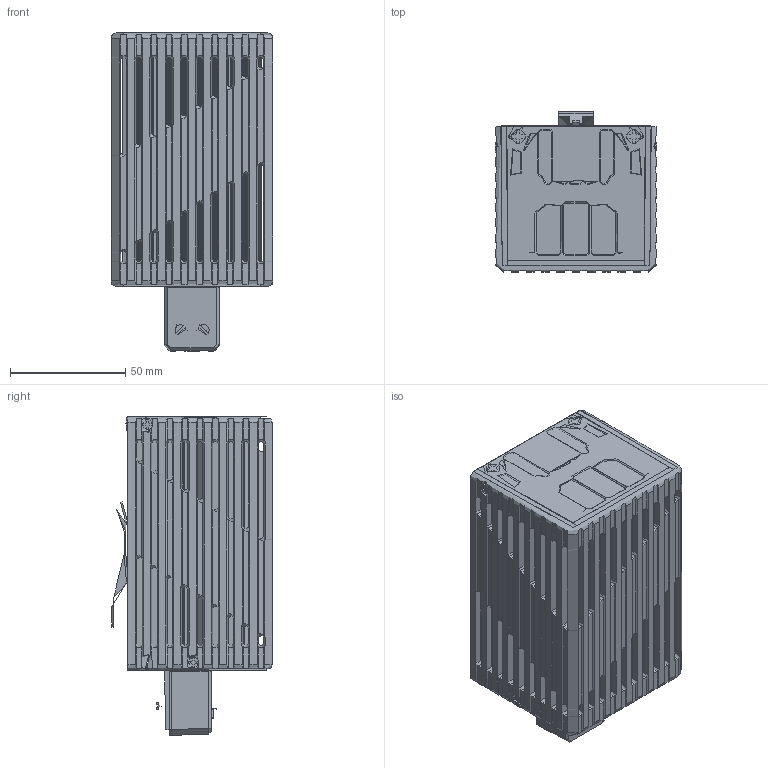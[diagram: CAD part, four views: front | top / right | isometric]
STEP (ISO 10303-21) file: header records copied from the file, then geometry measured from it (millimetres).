
FILE_DESCRIPTION(/* description */ (''),/* implementation_level */ '2;1');
FILE_NAME(/* name */ 'STHT75~1',/* time_stamp */ '2023-01-24T13:54:29+01:00',/* author */ (''),/* organization */ (''),/* preprocessor_version */ 'ST-DEVELOPER v16.5',/* originating_system */ '',/* authorisation */ '');
FILE_SCHEMA (('AUTOMOTIVE_DESIGN'));
Products named in the file (1): Document
Bounding box: 70.03 x 69.35 x 138.13 mm (x, y, z)
Volume: 174662.6 mm3; surface area: 188137.4 mm2
Topology: 18 solids, 424 shells, 2866 faces, 10112 edges, 7823 vertices
Faces by surface type: plane 1661, bspline 1205
Entity records: 169045 total; most frequent: CARTESIAN_POINT 109733, ORIENTED_EDGE 15738, EDGE_CURVE 8991, B_SPLINE_CURVE_WITH_KNOTS 7890, VERTEX_POINT 6709, EDGE_LOOP 2780, ADVANCED_FACE 2660, FACE_OUTER_BOUND 2660
